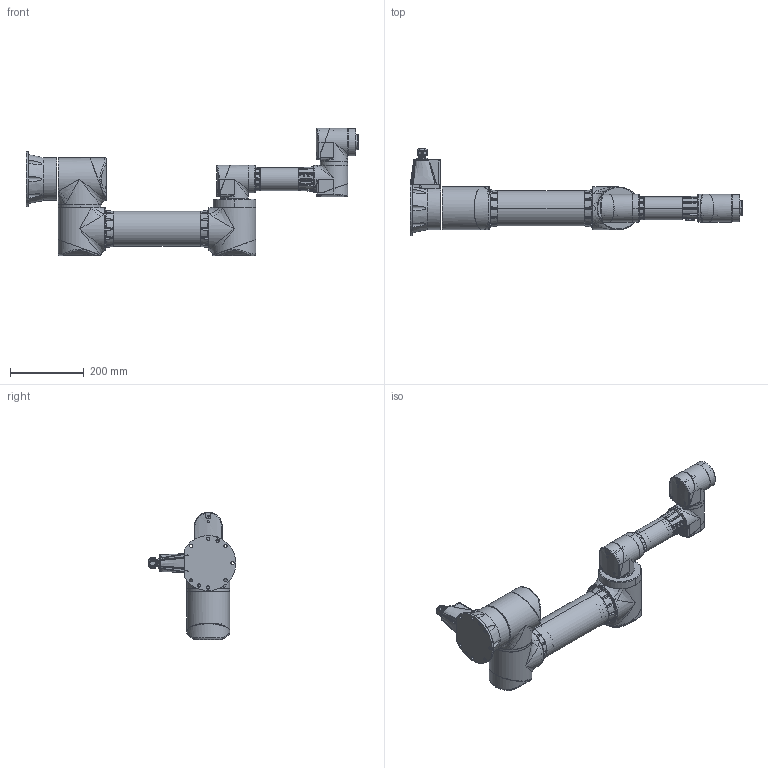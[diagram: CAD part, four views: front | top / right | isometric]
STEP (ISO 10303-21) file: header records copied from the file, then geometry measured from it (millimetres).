
FILE_DESCRIPTION((''),'2;1');
FILE_NAME('ZRA_0507N_ASM','2022-11-10T09:18:13',('ChoSeongHee'),(''),'CREO PARAMETRIC BY PTC INC, 2020354','CREO PARAMETRIC BY PTC INC, 2020354','');
FILE_SCHEMA(('CONFIG_CONTROL_DESIGN'));
Products named in the file (25): FLANGE_B; HOLDER_M; COVER_M; MODULE_M_ASM; RING_M; ARM1_PIPE; FLANGE_ARM1; ARM1_ASM; FLANGE_J3; HOLDER_S; COVER_S; MODULE_S_ASM; PIPE2; FLANGE_J4; FLANGE_J5; PLATE; PORT; ARM2_ASM; FLANGE_E; RING_S; COVER_J; CABLE; PLATE_J; COVER_J_ASM; ZRA_0507N_ASM
Assembly tree (29 placements, depth 3):
  ZRA_0507N_ASM
    FLANGE_B
    MODULE_M_ASM  x3
      HOLDER_M
      COVER_M
    RING_M
    ARM1_ASM
      ARM1_PIPE
      FLANGE_ARM1  x2
    FLANGE_J3
    MODULE_S_ASM  x3
      HOLDER_S
      COVER_S
    ARM2_ASM
      PIPE2
      FLANGE_J4
      FLANGE_J5
      PLATE
      PORT
    FLANGE_E
    RING_S
    COVER_J_ASM
      COVER_J
      CABLE
      PLATE_J
Bounding box: 900.1 x 237.3 x 344.89 mm (x, y, z)
Volume: 11852961.6 mm3; surface area: 909574.7 mm2
Topology: 28 solids, 212 shells, 3861 faces, 10478 edges, 6914 vertices
Faces by surface type: cylinder 1409, plane 1297, bspline 650, torus 269, cone 210, sphere 18, extrusion 8
Entity records: 146255 total; most frequent: CARTESIAN_POINT 72340, ORIENTED_EDGE 16264, DIRECTION 13894, EDGE_CURVE 8266, VERTEX_POINT 5414, AXIS2_PLACEMENT_3D 5218, VECTOR 3458, LINE 3450
